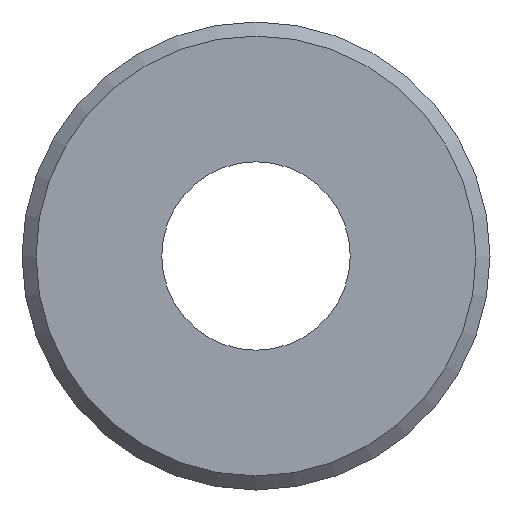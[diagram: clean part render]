
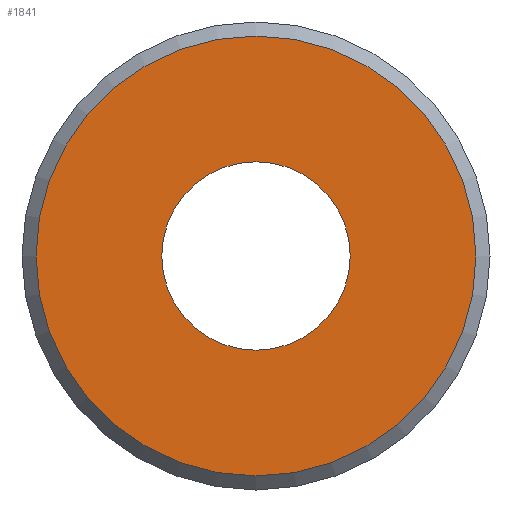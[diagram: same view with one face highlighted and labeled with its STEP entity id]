
A CAD part, left-side view. The second image highlights one B-rep face of the part: STEP entity #1841.
In plain terms, the highlighted planar face has unit normal (-1, 0, 0).
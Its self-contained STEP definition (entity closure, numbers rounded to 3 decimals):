
#193=FACE_BOUND('',#403,.T.);
#207=PLANE('',#2036);
#290=FACE_OUTER_BOUND('',#402,.T.);
#402=EDGE_LOOP('',(#1433));
#403=EDGE_LOOP('',(#1434,#1435));
#728=CIRCLE('',#2031,28.019);
#732=CIRCLE('',#2037,12.);
#733=CIRCLE('',#2038,12.);
#867=VERTEX_POINT('',#3214);
#871=VERTEX_POINT('',#3226);
#872=VERTEX_POINT('',#3227);
#1074=EDGE_CURVE('',#867,#867,#728,.T.);
#1079=EDGE_CURVE('',#871,#872,#732,.T.);
#1080=EDGE_CURVE('',#872,#871,#733,.T.);
#1433=ORIENTED_EDGE('',*,*,#1074,.F.);
#1434=ORIENTED_EDGE('',*,*,#1079,.T.);
#1435=ORIENTED_EDGE('',*,*,#1080,.T.);
#1841=ADVANCED_FACE('',(#290,#193),#207,.T.);
#2031=AXIS2_PLACEMENT_3D('',#3216,#2383,#2384);
#2036=AXIS2_PLACEMENT_3D('',#3225,#2394,#2395);
#2037=AXIS2_PLACEMENT_3D('',#3228,#2396,#2397);
#2038=AXIS2_PLACEMENT_3D('',#3229,#2398,#2399);
#2383=DIRECTION('center_axis',(1.,0.,0.));
#2384=DIRECTION('ref_axis',(0.,-1.,0.));
#2394=DIRECTION('center_axis',(-1.,0.,0.));
#2395=DIRECTION('ref_axis',(0.,0.,1.));
#2396=DIRECTION('center_axis',(1.,0.,0.));
#2397=DIRECTION('ref_axis',(0.,0.,-1.));
#2398=DIRECTION('center_axis',(1.,0.,0.));
#2399=DIRECTION('ref_axis',(0.,0.,-1.));
#3214=CARTESIAN_POINT('',(0.,28.019,0.));
#3216=CARTESIAN_POINT('Origin',(0.,0.,0.));
#3225=CARTESIAN_POINT('Origin',(0.,29.807,0.));
#3226=CARTESIAN_POINT('',(0.,12.,0.));
#3227=CARTESIAN_POINT('',(0.,-12.,0.));
#3228=CARTESIAN_POINT('Origin',(0.,0.,0.));
#3229=CARTESIAN_POINT('Origin',(0.,0.,0.));
